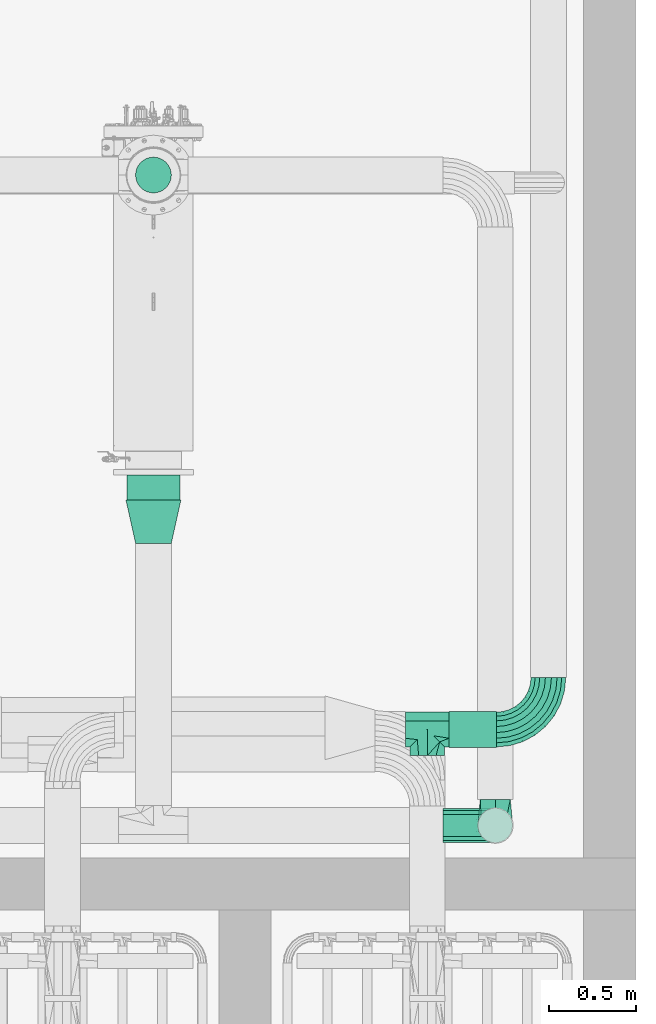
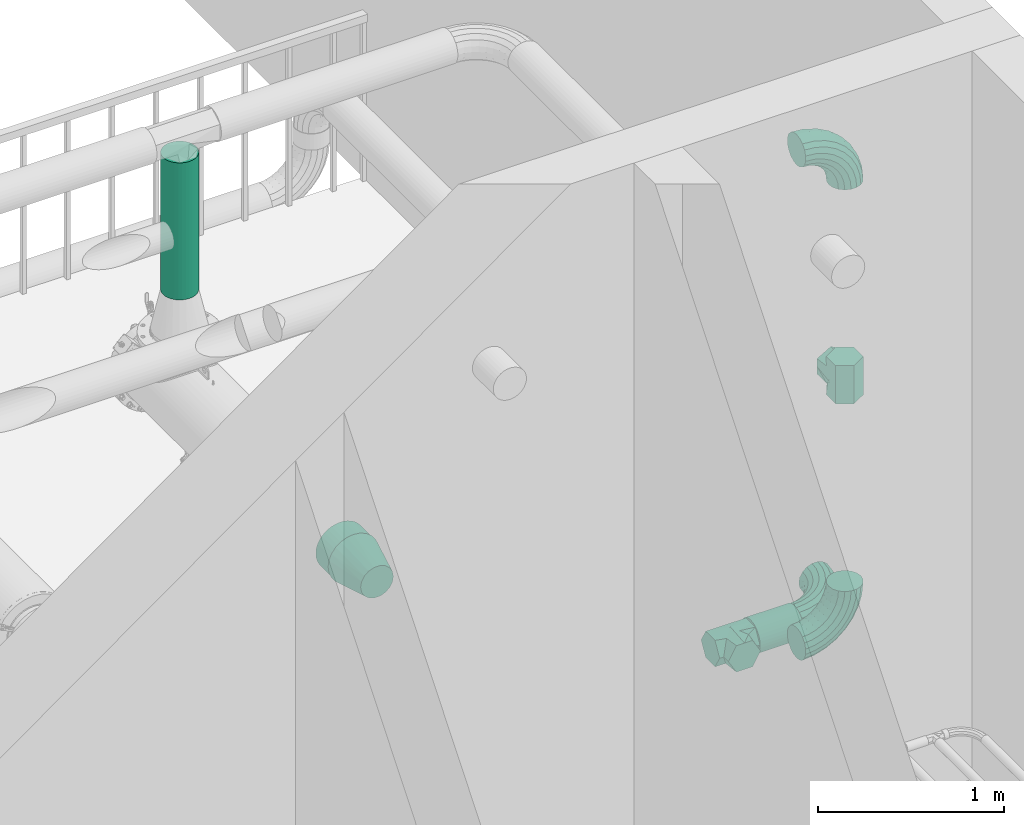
# One storey, part 24 of 28: 6 flow fittings, 3 flow segments.
"""IFC2X3 building model written with IfcOpenShell, lengths in millimetres."""

import ifcopenshell
import ifcopenshell.guid

model = None  # the IFC model being written
_history = None  # IfcOwnerHistory: only IFC2X3 demands one
_inside = {}  # id of a spatial element -> (the spatial element, [elements in it])
_under = {}  # id of a project, library or spatial element -> (it, [spatial elements below it])
_declared = {}  # id of a project -> (the project, [libraries it declares])
_typed = {}  # id of a type object -> (the type object, [elements of that type])
_made_of = {}  # id of a material, layer set ... -> (it, [elements and type objects made of it])


def new_model(schema):
    """Start an empty IFC model of exactly this schema.

    Asked for "IFC4X3", IfcOpenShell would pick the latest addendum, in which some entities
    have other attributes; the version numbers below select the first issue.
    IFC2X3 requires an IfcOwnerHistory on every rooted entity: one is made here for all.
    """
    global model, _history
    if schema == "IFC4X3":
        model = ifcopenshell.file(schema_version=(4, 3, 0, 0))
    else:
        model = ifcopenshell.file(schema=schema)
    _inside.clear()
    _under.clear()
    _declared.clear()
    _typed.clear()
    _made_of.clear()
    _history = None
    if model.schema == "IFC2X3":
        org = make("IfcOrganization", Name="unknown")
        user = make(
            "IfcPersonAndOrganization",
            ThePerson=make("IfcPerson", FamilyName="unknown"),
            TheOrganization=org,
        )
        app = make(
            "IfcApplication",
            ApplicationDeveloper=org,
            Version="unknown",
            ApplicationFullName="unknown",
            ApplicationIdentifier="unknown",
        )
        _history = make(
            "IfcOwnerHistory",
            OwningUser=user,
            OwningApplication=app,
            ChangeAction="ADDED",
            CreationDate=0,
        )
    return model


def make(cls, **values):
    """One entity of the class cls with the attributes given. An attribute that is None is left unset."""
    return model.create_entity(
        cls, **{name: value for name, value in values.items() if value is not None}
    )


def entity(cls, *values):
    """Any entity or typed value of the class cls, its attributes in the order of the schema. None: left unset."""
    e = model.create_entity(cls)
    for i, value in enumerate(values):
        if value is not None:
            e[i] = value
    return e


def rooted(cls, **values):
    """An entity with a GlobalId (a new one), such as an element, a storey or a relation."""
    return make(cls, GlobalId=ifcopenshell.guid.new(), OwnerHistory=_history, **values)


def si_unit(unit_type, name, prefix=None):
    """IfcSIUnit, for example si_unit("LENGTHUNIT", "METRE", prefix="MILLI")."""
    return make("IfcSIUnit", UnitType=unit_type, Prefix=prefix, Name=name)


def converted_unit(unit_type, name, factor, base, dimensions=None, offset=None):
    """IfcConversionBasedUnit, such as the inch: factor (a typed value) times the base unit."""
    return make(
        "IfcConversionBasedUnit"
        if offset is None
        else "IfcConversionBasedUnitWithOffset",
        ConversionOffset=offset,
        Dimensions=None
        if dimensions is None
        else entity("IfcDimensionalExponents", *dimensions),
        UnitType=unit_type,
        Name=name,
        ConversionFactor=make(
            "IfcMeasureWithUnit", ValueComponent=factor, UnitComponent=base
        ),
    )


def assignment(units):
    """IfcUnitAssignment: the units of a project."""
    return None if units is None else make("IfcUnitAssignment", Units=units)


def point(xyz):
    """IfcCartesianPoint."""
    return None if xyz is None else make("IfcCartesianPoint", Coordinates=xyz)


def direction(xyz):
    """IfcDirection."""
    return None if xyz is None else make("IfcDirection", DirectionRatios=xyz)


def frame(location, z_axis=None, x_axis=None):
    """IfcAxis2Placement3D, a coordinate frame: its origin and axes. An axis left out is left unset."""
    return make(
        "IfcAxis2Placement3D",
        Location=point(location),
        Axis=direction(z_axis),
        RefDirection=direction(x_axis),
    )


def frame_2d(location, x_axis=None):
    """IfcAxis2Placement2D, a coordinate frame in the plane: its origin and x axis."""
    return make(
        "IfcAxis2Placement2D", Location=point(location), RefDirection=direction(x_axis)
    )


def origin():
    """The frame at (0, 0, 0) with its axes left unset."""
    return frame((0.0, 0.0, 0.0))


def origin_2d_with_axis():
    """The frame at (0, 0) in the plane with the x axis (1, 0) written out."""
    return frame_2d((0.0, 0.0), x_axis=(1.0, 0.0))


def place(relative_to, where):
    """IfcLocalPlacement: puts the frame where relative to a parent placement (None: the world)."""
    return make(
        "IfcLocalPlacement", PlacementRelTo=relative_to, RelativePlacement=where
    )


def context(
    kind, dimensions, precision=None, world=None, true_north=None, identifier=None
):
    """IfcGeometricRepresentationContext, for example the 3D "Model" context."""
    return make(
        "IfcGeometricRepresentationContext",
        ContextIdentifier=identifier,
        ContextType=kind,
        CoordinateSpaceDimension=dimensions,
        Precision=precision,
        WorldCoordinateSystem=world,
        TrueNorth=true_north,
    )


def subcontext(parent, identifier, kind, view, scale=None):
    """IfcGeometricRepresentationSubContext, for example "Body" below "Model"."""
    return make(
        "IfcGeometricRepresentationSubContext",
        ContextIdentifier=identifier,
        ContextType=kind,
        ParentContext=parent,
        TargetScale=scale,
        TargetView=view,
    )


def project(units=None, contexts=None):
    """IfcProject with its units and contexts."""
    return rooted(
        "IfcProject",
        Name="project",
        RepresentationContexts=contexts,
        UnitsInContext=assignment(units),
    )


def spatial(cls, under=None, at=None, **own):
    """A site, building, storey or space (cls), placed at a placement, below another one or the project."""
    s = rooted(cls, ObjectPlacement=at, **own)
    if under is not None:
        _under.setdefault(under.id(), (under, []))[1].append(s)
    return s


def profile(cls, at=None, kind="AREA", **sizes):
    """A parametric profile (cls). Its sizes go by their IFC names, for example OverallWidth=200.0."""
    return make(cls, ProfileType=kind, Position=at, **sizes)


def circle(**sizes):
    """IfcCircleProfileDef."""
    return profile("IfcCircleProfileDef", **sizes)


def extrude(swept, where, along, depth):
    """IfcExtrudedAreaSolid: the profile swept, set in the frame where, extruded along a direction by depth."""
    return make(
        "IfcExtrudedAreaSolid",
        SweptArea=swept,
        Position=where,
        ExtrudedDirection=direction(along),
        Depth=depth,
    )


def faces_of(points, faces, orient=None, outer=None):
    """IfcFace entities. A face is a list of loops; a loop is a list of indices into points, from 0.

    orient and outer hold one flag for each loop. By default every Orientation is true, the
    first loop of a face is its IfcFaceOuterBound and the others are IfcFaceBound.
    """
    made = []
    for i, loops in enumerate(faces):
        bounds = []
        for j, loop in enumerate(loops):
            is_outer = j == 0 if outer is None else outer[i][j]
            bounds.append(
                make(
                    "IfcFaceOuterBound" if is_outer else "IfcFaceBound",
                    Bound=make("IfcPolyLoop", Polygon=[points[k] for k in loop]),
                    Orientation=True if orient is None else orient[i][j],
                )
            )
        made.append(make("IfcFace", Bounds=bounds))
    return made


def faceted_brep(points, faces, orient=None, outer=None, voids=None):
    """IfcFacetedBrep: a solid bounded by flat faces; with voids (closed shells), ...WithVoids."""
    shared = [point(p) for p in points]
    hull = make("IfcClosedShell", CfsFaces=faces_of(shared, faces, orient, outer))
    if voids is None:
        return make("IfcFacetedBrep", Outer=hull)
    return make(
        "IfcFacetedBrepWithVoids",
        Outer=hull,
        Voids=[
            make(cls, CfsFaces=faces_of(shared, fs, o, b)) for cls, fs, o, b in voids
        ],
    )


def shape(context_of_items, identifier, shape_type, items):
    """IfcShapeRepresentation: the items that make up one representation, for example the "Body"."""
    return make(
        "IfcShapeRepresentation",
        ContextOfItems=context_of_items,
        RepresentationIdentifier=identifier,
        RepresentationType=shape_type,
        Items=items,
    )


def source(mapping_origin, context_of_items, identifier, shape_type, items):
    """IfcRepresentationMap: a shape defined once, which mapped items show again and again."""
    return make(
        "IfcRepresentationMap",
        MappingOrigin=mapping_origin,
        MappedRepresentation=shape(context_of_items, identifier, shape_type, items),
    )


def transform(
    local_origin,
    x_axis=None,
    y_axis=None,
    z_axis=None,
    scale=None,
    scale2=None,
    scale3=None,
    uniform=True,
):
    """IfcCartesianTransformationOperator3D, or its non-uniform kind. x_axis, y_axis, z_axis: its Axis1, 2, 3."""
    if uniform:
        return make(
            "IfcCartesianTransformationOperator3D",
            Axis1=direction(x_axis),
            Axis2=direction(y_axis),
            LocalOrigin=point(local_origin),
            Scale=scale,
            Axis3=direction(z_axis),
        )
    return make(
        "IfcCartesianTransformationOperator3DnonUniform",
        Axis1=direction(x_axis),
        Axis2=direction(y_axis),
        LocalOrigin=point(local_origin),
        Scale=scale,
        Axis3=direction(z_axis),
        Scale2=scale2,
        Scale3=scale3,
    )


def mapped(mapping_source, mapping_target):
    """IfcMappedItem: shows the shape of a source again, moved by a transform."""
    return make(
        "IfcMappedItem", MappingSource=mapping_source, MappingTarget=mapping_target
    )


def material(Name=None, Category=None):
    """IfcMaterial."""
    return make("IfcMaterial", Name=Name, Category=Category)


def made_of(thing, what):
    """Note that an element or type object is made of a material, layer set ...; save() writes the relation."""
    if what is not None:
        _made_of.setdefault(what.id(), (what, []))[1].append(thing)
    return thing


def type_object(cls, material=None, **own):
    """A type object (cls), such as IfcWallType, which elements share."""
    return made_of(rooted(cls, **own), material)


def type_shapes(of_type, sources):
    """Give a type object the sources (RepresentationMaps) that its elements show as mapped items."""
    of_type.RepresentationMaps = sources


def element(
    cls,
    number,
    at=None,
    inside=None,
    cuts=None,
    type_object=None,
    material=None,
    context=None,
    identifier="Body",
    shape_type=None,
    held_by="IfcProductDefinitionShape",
    body=None,
    shapes=None,
    **own,
):
    """One element of the class cls, such as IfcWall. Its Tag is "e" and its number.

    at: its placement. inside: the storey or other place that contains it. cuts: it is an
    opening in that element (IfcRelVoidsElement). A single representation is given by context,
    identifier, shape_type and body (its items); several are given by shapes. held_by: the class
    of the entity that holds the representations. save() writes the other relations.
    """
    e = rooted(cls, Tag="e%d" % number, ObjectPlacement=at, **own)
    if body is not None:
        shapes = [shape(context, identifier, shape_type, body)]
    if shapes is not None:
        e.Representation = make(held_by, Representations=shapes)
    if inside is not None:
        _inside.setdefault(inside.id(), (inside, []))[1].append(e)
    if cuts is not None:
        rooted(
            "IfcRelVoidsElement", RelatingBuildingElement=cuts, RelatedOpeningElement=e
        )
    if type_object is not None:
        _typed.setdefault(type_object.id(), (type_object, []))[1].append(e)
    return made_of(e, material)


def aggregate(whole, parts):
    """IfcRelAggregates: a whole, such as a stair, and the parts it consists of."""
    return rooted("IfcRelAggregates", RelatingObject=whole, RelatedObjects=parts)


def save(model, path):
    """Write the relations noted so far, then the file.

    IfcRelAggregates (storeys below a building ...), IfcRelContainedInSpatialStructure (elements
    in a storey), IfcRelDefinesByType, IfcRelAssociatesMaterial and IfcRelDeclares: one each for
    every whole, place, type object, material and project.
    """
    for whole, parts in _under.values():
        aggregate(whole, parts)
    for where, things in _inside.values():
        rooted(
            "IfcRelContainedInSpatialStructure",
            RelatedElements=things,
            RelatingStructure=where,
        )
    for kind, things in _typed.values():
        rooted("IfcRelDefinesByType", RelatedObjects=things, RelatingType=kind)
    for what, things in _made_of.values():
        rooted("IfcRelAssociatesMaterial", RelatedObjects=things, RelatingMaterial=what)
    for by, libraries in _declared.values():
        rooted("IfcRelDeclares", RelatingContext=by, RelatedDefinitions=libraries)
    model.write(path)


model = new_model("IFC2X3")

# Units and contexts
model_context = context("Model", 3, precision=0.01, world=origin(), true_north=direction((6.123031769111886e-17, 1.0)))
body_context = subcontext(model_context, "Body", "Model", "MODEL_VIEW")
ifc_project = project(units=[si_unit("LENGTHUNIT", "METRE", prefix="MILLI"), converted_unit("PLANEANGLEUNIT", "DEGREE", entity("IfcPlaneAngleMeasure", 0.017453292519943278), si_unit("PLANEANGLEUNIT", "RADIAN"), dimensions=[0, 0, 0, 0, 0, 0, 0]), si_unit("AREAUNIT", "SQUARE_METRE")], contexts=[model_context])

# Site, building, storey
site_placement = place(None, frame((7776.576483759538, 118.3519876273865, 0.0)))
site = spatial("IfcSite", under=ifc_project, at=site_placement, Name="Default", CompositionType="ELEMENT")
building_placement = place(site_placement, origin())
building = spatial("IfcBuilding", under=site, at=building_placement, Name="Bygning (endres i Project Information)", CompositionType="ELEMENT")
storey_placement = place(building_placement, frame((0.0, 0.0, 14000.0)))
storey = spatial("IfcBuildingStorey", under=building, at=storey_placement, Name="Plan U1 - Arbeid", CompositionType="ELEMENT", Elevation=14000.000000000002)

# Flow segments
ifc_material_1 = material(Name="SS 2343 Rustfritt stål, prosessrør, generisk")
pipe_segment_type = type_object("IfcPipeSegmentType", Name="Pipe Types:AISI 304L Rustfritt", PredefinedType="NOTDEFINED", material=ifc_material_1)
flow_segment_1_placement = place(storey_placement, origin())
element("IfcFlowSegment", 1, at=flow_segment_1_placement, inside=storey, type_object=pipe_segment_type, Name="Pipe Types:AISI 304L Rustfritt", ObjectType="Pipe Types:AISI 304L Rustfritt", context=body_context, shape_type="SweptSolid", body=[
    extrude(circle(Radius=103.0, at=frame_2d((-4.331468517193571e-12, 0.0), x_axis=(1.0, 0.0))), frame((29497.26396460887, 28429.85394005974, 1538.2999999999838)), (0.0, 0.0, 1.0), 899.7103656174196),
])
flow_segment_2_placement = place(storey_placement, origin())
element("IfcFlowSegment", 2, at=flow_segment_2_placement, inside=storey, type_object=pipe_segment_type, Name="Pipe Types:AISI 304L Rustfritt", ObjectType="Pipe Types:AISI 304L Rustfritt", context=body_context, shape_type="SweptSolid", body=[
    extrude(circle(Radius=153.0, at=origin_2d_with_axis()), frame((29497.26396460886, 26559.95730578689, 903.5000000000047), z_axis=(0.0, 1.0, 0.0), x_axis=(1.0, 0.0, 0.0)), (0.0, 0.0, 1.0), 142.39663427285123),
])
flow_segment_3_placement = place(storey_placement, origin())
element("IfcFlowSegment", 3, at=flow_segment_3_placement, inside=storey, type_object=pipe_segment_type, Name="Pipe Types:AISI 304L Rustfritt", ObjectType="Pipe Types:AISI 304L Rustfritt", context=body_context, shape_type="SweptSolid", body=[
    extrude(circle(Radius=103.0, at=frame_2d((0.0, -2.1657342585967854e-12), x_axis=(1.0, 0.0))), frame((31199.10137486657, 25237.757305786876, 603.0), z_axis=(1.0, 0.0, 0.0), x_axis=(0.0, -1.0, 0.0)), (0.0, 0.0, 1.0), 271.90000000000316),
])

# Flow fittings
pipe_fitting_type_1 = type_object("IfcPipeFittingType", Name="VA_prosess_rustfritt_bend_D+100:VA_prosess_rustfritt_bend_D+100", PredefinedType="NOTDEFINED", material=ifc_material_1)
shared_shape_1 = source(origin(), body_context, "Body", "Brep", [
    faceted_brep([(-221.96387119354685, -92.314112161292, 0.0), (-223.1404097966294, -86.39925317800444, 34.202014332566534), (-300.0, -93.96926207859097, 34.202014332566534), (-300.0, -100.0, 0.0), (-226.52811768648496, -69.36809551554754, 64.27876096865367), (-300.0, -76.60444431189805, 64.27876096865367), (-231.71838729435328, -43.274848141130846, 86.60254037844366), (-300.0, -50.0, 86.60254037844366), (-238.08519550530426, -11.266741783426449, 98.48077530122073), (-300.0, -17.36481776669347, 98.48077530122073), (-244.86061128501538, 22.79557354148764, 98.48077530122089), (-300.0, 17.36481776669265, 98.48077530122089), (-251.22741949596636, 54.80367989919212, 86.60254037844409), (-300.0, 50.0, 86.60254037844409), (-256.41768910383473, 80.89692727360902, 64.27876096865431), (-300.0, 76.60444431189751, 64.27876096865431), (-259.8053969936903, 97.92808493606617, 34.202014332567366), (-300.0, 93.96926207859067, 34.202014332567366), (-260.9819355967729, 103.84294391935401, 0.0), (-300.0, 100.0, 0.0), (-259.8053969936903, 97.92808493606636, -34.20201433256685), (-300.0, 93.96926207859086, -34.20201433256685), (-256.4176891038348, 80.89692727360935, -64.2787609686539), (-300.0, 76.60444431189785, -64.2787609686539), (-251.22741949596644, 54.80367989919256, -86.60254037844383), (-300.0, 50.0, -86.60254037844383), (-244.86061128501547, 22.795573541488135, -98.48077530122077), (-300.0, 17.364817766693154, -98.48077530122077), (-238.08519550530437, -11.26674178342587, -98.48077530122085), (-300.0, -17.36481776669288, -98.48077530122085), (-231.71838729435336, -43.27484814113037, -86.60254037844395), (-300.0, -50.0, -86.60254037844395), (-226.52811768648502, -69.3680955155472, -64.27876096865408), (-300.0, -76.6044443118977, -64.27876096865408), (-223.14040979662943, -86.39925317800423, -34.2020143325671), (-300.0, -93.96926207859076, -34.2020143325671), (-146.9266270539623, -69.55181300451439, 0.0), (-149.2344905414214, -63.98013767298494, 34.202014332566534), (-155.87971860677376, -47.937137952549, 64.27876096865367), (-166.06079867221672, -23.357836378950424, 86.60254037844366), (-178.54974222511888, 6.79314052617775, 98.48077530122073), (-191.8401983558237, 38.87913996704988, 98.48077530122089), (-204.32914190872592, 69.03011687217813, 86.60254037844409), (-214.51022197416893, 93.6094184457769, 64.27876096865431), (-221.15545003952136, 109.65241816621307, 34.202014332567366), (-223.46331352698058, 115.2240934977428, 0.0), (-221.15545003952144, 109.65241816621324, -34.20201433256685), (-214.51022197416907, 93.60941844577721, -64.2787609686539), (-204.3291419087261, 69.03011687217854, -86.60254037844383), (-191.8401983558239, 38.87913996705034, -98.48077530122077), (-178.5497422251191, 6.7931405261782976, -98.48077530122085), (-166.0607986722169, -23.357836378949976, -86.60254037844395), (-155.8797186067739, -47.937137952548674, -64.27876096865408), (-149.23449054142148, -63.98013767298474, -34.2020143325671), (-77.77190679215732, -32.58784492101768, 0.0), (-81.12240526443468, -27.573469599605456, 34.202014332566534), (-90.76978111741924, -13.135151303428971, 64.27876096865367), (-105.5504184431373, 8.985635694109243, 86.60254037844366), (-123.68155424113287, 36.120798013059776, 98.48077530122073), (-142.97630594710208, 64.997434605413, 98.48077530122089), (-161.1074417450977, 92.13259692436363, 86.60254037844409), (-175.88807907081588, 114.253383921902, 64.27876096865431), (-185.53545492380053, 128.69170221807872, 34.202014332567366), (-188.88595339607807, 133.70607753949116, 0.0), (-185.53545492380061, 128.69170221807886, -34.20201433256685), (-175.88807907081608, 114.25338392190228, -64.2787609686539), (-161.10744174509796, 92.132596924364, -86.60254037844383), (-142.97630594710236, 64.99743460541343, -98.48077530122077), (-123.68155424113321, 36.120798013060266, -98.48077530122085), (-105.55041844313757, 8.985635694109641, -86.60254037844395), (-90.76978111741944, -13.135151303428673, -64.27876096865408), (-81.12240526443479, -27.573469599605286, -34.2020143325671), (-17.15728752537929, 17.157287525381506, 0.0), (-21.421663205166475, 21.42166320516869, 34.202014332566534), (-33.70044360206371, 33.700443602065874, 64.27876096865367), (-52.51262658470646, 52.512626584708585, 86.60254037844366), (-75.58918524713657, 75.58918524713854, 98.48077530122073), (-100.14674604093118, 100.14674604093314, 98.48077530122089), (-123.22330470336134, 123.22330470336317, 86.60254037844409), (-142.03548768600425, 142.035487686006, 64.27876096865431), (-154.3142680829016, 154.3142680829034, 34.202014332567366), (-158.578643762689, 158.57864376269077, 0.0), (-154.31426808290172, 154.31426808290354, -34.20201433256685), (-142.03548768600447, 142.03548768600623, -64.2787609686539), (-123.22330470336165, 123.2233047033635, -86.60254037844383), (-100.14674604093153, 100.1467460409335, -98.48077530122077), (-75.58918524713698, 75.58918524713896, -98.48077530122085), (-52.51262658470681, 52.512626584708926, -86.60254037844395), (-33.700443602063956, 33.70044360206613, -64.27876096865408), (-21.42166320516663, 21.421663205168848, -34.2020143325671), (32.58784492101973, 77.77190679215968, 0.0), (27.573469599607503, 81.12240526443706, 34.202014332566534), (13.135151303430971, 90.76978111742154, 64.27876096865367), (-8.985635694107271, 105.55041844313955, 86.60254037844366), (-36.1207980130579, 123.68155424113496, 98.48077530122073), (-64.99743460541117, 142.97630594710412, 98.48077530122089), (-92.13259692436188, 161.10744174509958, 86.60254037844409), (-114.25338392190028, 175.88807907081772, 64.27876096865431), (-128.69170221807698, 185.53545492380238, 34.202014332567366), (-133.70607753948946, 188.8859533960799, 0.0), (-128.69170221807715, 185.5354549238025, -34.20201433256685), (-114.25338392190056, 175.8880790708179, -64.2787609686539), (-92.13259692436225, 161.10744174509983, -86.60254037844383), (-64.99743460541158, 142.9763059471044, -98.48077530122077), (-36.12079801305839, 123.68155424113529, -98.48077530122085), (-8.985635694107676, 105.55041844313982, -86.60254037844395), (13.13515130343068, 90.76978111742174, -64.27876096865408), (27.573469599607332, 81.12240526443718, -34.2020143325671), (69.55181300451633, 146.92662705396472, 0.0), (63.98013767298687, 149.23449054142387, 34.202014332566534), (47.937137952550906, 155.87971860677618, 64.27876096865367), (23.357836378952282, 166.06079867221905, 86.60254037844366), (-6.793140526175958, 178.54974222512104, 98.48077530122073), (-38.879139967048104, 191.8401983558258, 98.48077530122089), (-69.03011687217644, 204.32914190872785, 86.60254037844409), (-93.60941844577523, 214.5102219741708, 64.27876096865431), (-109.65241816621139, 221.15545003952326, 34.202014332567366), (-115.22409349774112, 223.46331352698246, 0.0), (-109.65241816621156, 221.15545003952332, -34.20201433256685), (-93.60941844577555, 214.51022197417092, -64.2787609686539), (-69.03011687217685, 204.32914190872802, -86.60254037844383), (-38.87913996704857, 191.840198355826, -98.48077530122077), (-6.793140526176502, 178.54974222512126, -98.48077530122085), (23.357836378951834, 166.06079867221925, -86.60254037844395), (47.93713795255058, 155.87971860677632, -64.27876096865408), (63.98013767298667, 149.23449054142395, -34.2020143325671), (92.31411216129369, 221.96387119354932, 0.0), (86.39925317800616, 223.1404097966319, 34.202014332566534), (69.36809551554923, 226.52811768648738, 64.27876096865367), (43.27484814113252, 231.71838729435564, 86.60254037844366), (11.266741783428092, 238.08519550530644, 98.48077530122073), (-22.795573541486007, 244.86061128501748, 98.48077530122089), (-54.80367989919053, 251.22741949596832, 86.60254037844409), (-80.89692727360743, 256.4176891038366, 64.27876096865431), (-97.9280849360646, 259.80539699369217, 34.202014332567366), (-103.84294391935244, 260.9819355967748, 0.0), (-97.92808493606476, 259.8053969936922, -34.20201433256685), (-80.89692727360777, 256.41768910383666, -64.2787609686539), (-54.80367989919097, 251.2274194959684, -86.60254037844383), (-22.795573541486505, 244.8606112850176, -98.48077530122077), (11.266741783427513, 238.08519550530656, -98.48077530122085), (43.27484814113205, 231.71838729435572, -86.60254037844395), (69.36809551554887, 226.52811768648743, -64.27876096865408), (86.39925317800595, 223.14040979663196, -34.2020143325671), (100.0, 300.0, 0.0), (93.96926207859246, 300.0, 34.202014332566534), (76.60444431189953, 300.0, 64.27876096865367), (50.0, 300.0, 86.60254037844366), (17.36481776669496, 300.0, 98.48077530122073), (-17.36481776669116, 300.0, 98.48077530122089), (-50.0, 300.0, 86.60254037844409), (-76.60444431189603, 300.0, 64.27876096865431), (-93.9692620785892, 300.0, 34.202014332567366), (-100.0, 300.0, 0.0), (-93.96926207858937, 300.0, -34.20201433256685), (-76.60444431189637, 300.0, -64.2787609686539), (-50.0, 300.0, -86.60254037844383), (-17.364817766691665, 300.0, -98.48077530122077), (17.36481776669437, 300.0, -98.48077530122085), (50.0, 300.0, -86.60254037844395), (76.60444431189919, 300.0, -64.27876096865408), (93.96926207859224, 300.0, -34.2020143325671)], [[[0, 1, 2, 3]], [[1, 4, 5, 2]], [[4, 6, 7, 5]], [[6, 8, 9, 7]], [[8, 10, 11, 9]], [[10, 12, 13, 11]], [[12, 14, 15, 13]], [[14, 16, 17, 15]], [[16, 18, 19, 17]], [[18, 20, 21, 19]], [[20, 22, 23, 21]], [[22, 24, 25, 23]], [[24, 26, 27, 25]], [[26, 28, 29, 27]], [[28, 30, 31, 29]], [[30, 32, 33, 31]], [[32, 34, 35, 33]], [[34, 0, 3, 35]], [[36, 37, 1, 0]], [[37, 38, 4, 1]], [[38, 39, 6, 4]], [[39, 40, 8, 6]], [[40, 41, 10, 8]], [[41, 42, 12, 10]], [[42, 43, 14, 12]], [[43, 44, 16, 14]], [[44, 45, 18, 16]], [[45, 46, 20, 18]], [[46, 47, 22, 20]], [[47, 48, 24, 22]], [[48, 49, 26, 24]], [[49, 50, 28, 26]], [[50, 51, 30, 28]], [[51, 52, 32, 30]], [[52, 53, 34, 32]], [[53, 36, 0, 34]], [[54, 55, 37, 36]], [[55, 56, 38, 37]], [[56, 57, 39, 38]], [[57, 58, 40, 39]], [[58, 59, 41, 40]], [[59, 60, 42, 41]], [[60, 61, 43, 42]], [[61, 62, 44, 43]], [[62, 63, 45, 44]], [[63, 64, 46, 45]], [[64, 65, 47, 46]], [[65, 66, 48, 47]], [[66, 67, 49, 48]], [[67, 68, 50, 49]], [[68, 69, 51, 50]], [[69, 70, 52, 51]], [[70, 71, 53, 52]], [[71, 54, 36, 53]], [[72, 73, 55, 54]], [[73, 74, 56, 55]], [[74, 75, 57, 56]], [[75, 76, 58, 57]], [[76, 77, 59, 58]], [[77, 78, 60, 59]], [[78, 79, 61, 60]], [[79, 80, 62, 61]], [[80, 81, 63, 62]], [[81, 82, 64, 63]], [[82, 83, 65, 64]], [[83, 84, 66, 65]], [[84, 85, 67, 66]], [[85, 86, 68, 67]], [[86, 87, 69, 68]], [[87, 88, 70, 69]], [[88, 89, 71, 70]], [[89, 72, 54, 71]], [[90, 91, 73, 72]], [[91, 92, 74, 73]], [[92, 93, 75, 74]], [[93, 94, 76, 75]], [[94, 95, 77, 76]], [[95, 96, 78, 77]], [[96, 97, 79, 78]], [[97, 98, 80, 79]], [[98, 99, 81, 80]], [[99, 100, 82, 81]], [[100, 101, 83, 82]], [[101, 102, 84, 83]], [[102, 103, 85, 84]], [[103, 104, 86, 85]], [[104, 105, 87, 86]], [[105, 106, 88, 87]], [[106, 107, 89, 88]], [[107, 90, 72, 89]], [[108, 109, 91, 90]], [[109, 110, 92, 91]], [[110, 111, 93, 92]], [[111, 112, 94, 93]], [[112, 113, 95, 94]], [[113, 114, 96, 95]], [[114, 115, 97, 96]], [[115, 116, 98, 97]], [[116, 117, 99, 98]], [[117, 118, 100, 99]], [[118, 119, 101, 100]], [[119, 120, 102, 101]], [[120, 121, 103, 102]], [[121, 122, 104, 103]], [[122, 123, 105, 104]], [[123, 124, 106, 105]], [[124, 125, 107, 106]], [[125, 108, 90, 107]], [[126, 127, 109, 108]], [[127, 128, 110, 109]], [[128, 129, 111, 110]], [[129, 130, 112, 111]], [[130, 131, 113, 112]], [[131, 132, 114, 113]], [[132, 133, 115, 114]], [[133, 134, 116, 115]], [[134, 135, 117, 116]], [[135, 136, 118, 117]], [[136, 137, 119, 118]], [[137, 138, 120, 119]], [[138, 139, 121, 120]], [[139, 140, 122, 121]], [[140, 141, 123, 122]], [[141, 142, 124, 123]], [[142, 143, 125, 124]], [[143, 126, 108, 125]], [[144, 145, 127, 126]], [[145, 146, 128, 127]], [[146, 147, 129, 128]], [[147, 148, 130, 129]], [[148, 149, 131, 130]], [[149, 150, 132, 131]], [[150, 151, 133, 132]], [[151, 152, 134, 133]], [[152, 153, 135, 134]], [[153, 154, 136, 135]], [[154, 155, 137, 136]], [[155, 156, 138, 137]], [[156, 157, 139, 138]], [[157, 158, 140, 139]], [[158, 159, 141, 140]], [[159, 160, 142, 141]], [[160, 161, 143, 142]], [[161, 144, 126, 143]], [[3, 2, 5, 7, 9, 11, 13, 15, 17, 19, 21, 23, 25, 27, 29, 31, 33, 35]], [[161, 160, 159, 158, 157, 156, 155, 154, 153, 152, 151, 150, 149, 148, 147, 146, 145, 144]]]),
])
type_shapes(pipe_fitting_type_1, [shared_shape_1])
for number, where, z_axis, x_axis in (
    (4, (31465.00137486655, 24685.75730578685, 903.5000000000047), (0.0, -1.0, 0.0), (1.0, 0.0, 0.0)),
    (5, (31465.00137486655, 24685.75730578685, 4140.0), (0.0, 1.0, 0.0), (1.0, 0.0, 0.0)),
):
    element("IfcFlowFitting", number, at=place(storey_placement, frame(where, z_axis=z_axis, x_axis=x_axis)), inside=storey, type_object=pipe_fitting_type_1, material=ifc_material_1, Name="VA_prosess_rustfritt_bend_D+100:VA_prosess_rustfritt_bend_D+100", ObjectType="VA_prosess_rustfritt_bend_D+100:VA_prosess_rustfritt_bend_D+100", context=body_context, shape_type="MappedRepresentation", body=[
        mapped(shared_shape_1, transform((0.0, 0.0, 0.0), scale=1.0)),
    ])
flow_fitting_1_placement = place(storey_placement, frame((31771.00137486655, 25237.757305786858, 603.0)))
element("IfcFlowFitting", 6, at=flow_fitting_1_placement, inside=storey, type_object=pipe_fitting_type_1, material=ifc_material_1, Name="VA_prosess_rustfritt_bend_D+100:VA_prosess_rustfritt_bend_D+100", ObjectType="VA_prosess_rustfritt_bend_D+100:VA_prosess_rustfritt_bend_D+100", context=body_context, shape_type="MappedRepresentation", body=[
    mapped(shared_shape_1, transform((0.0, 0.0, 0.0), scale=1.0)),
])
pipe_fitting_type_2 = type_object("IfcPipeFittingType", Name="Overganger, konsentriske, rustfritt EN 1,4307304L:Standard", PredefinedType="NOTDEFINED", material=ifc_material_1)
shared_shape_2 = source(origin(), body_context, "Body", "Brep", [
    faceted_brep([(252.2000000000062, -40.97105483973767, 152.9060583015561), (252.20000000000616, -79.15000000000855, 137.09182141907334), (252.20000000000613, -111.93500346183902, 111.93500346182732), (252.20000000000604, -137.09182141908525, 79.149999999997), (252.20000000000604, -152.9060583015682, 40.971054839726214), (252.200000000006, -158.30000000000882, 0.0), (252.20000000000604, -152.90605830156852, -40.971054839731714), (252.20000000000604, -137.09182141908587, -79.1500000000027), (252.20000000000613, -111.93500346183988, -111.93500346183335), (252.20000000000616, -79.15000000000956, -137.09182141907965), (252.2000000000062, -40.97105483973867, -152.9060583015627), (252.2000000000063, 0.0, -158.30000000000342), (252.20000000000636, 40.971054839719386, -152.9060583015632), (252.2000000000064, 79.14999999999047, -137.09182141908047), (252.20000000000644, 111.93500346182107, -111.93500346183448), (252.20000000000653, 137.09182141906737, -79.15000000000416), (252.20000000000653, 152.90605830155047, -40.971054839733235), (252.20000000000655, 158.2999999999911, 0.0), (252.20000000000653, 152.90605830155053, 40.97105483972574), (252.20000000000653, 137.0918214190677, 79.14999999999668), (252.20000000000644, 111.93500346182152, 111.93500346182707), (252.2000000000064, 79.14999999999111, 137.09182141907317), (252.20000000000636, 40.97105483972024, 152.90605830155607), (252.2000000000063, 0.0, 158.29999999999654), (0.0, 17.71211412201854, 100.45039080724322), (0.0, 51.0, 88.33459118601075), (0.0, 78.13653319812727, 65.56433618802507), (0.0, 95.84864732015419, 34.8860546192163), (0.0, 102.0, 0.0), (0.0, 95.84864732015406, -34.88605461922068), (0.0, 78.13653319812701, -65.5643361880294), (0.0, 51.0, -88.33459118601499), (0.0, 17.71211412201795, -100.4503908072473), (0.0, -17.71211412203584, -100.4503908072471), (0.0, -51.0, -88.33459118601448), (0.0, -78.13653319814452, -65.5643361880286), (0.0, -95.84864732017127, -34.88605461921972), (0.0, -102.0, 0.0), (0.0, -95.84864732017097, 34.8860546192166), (0.0, -78.136533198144, 65.56433618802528), (0.0, -51.0, 88.3345911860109), (0.0, -17.71211412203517, 100.45039080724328)], [[[0, 1, 2, 3, 4, 5, 6, 7, 8, 9, 10, 11, 12, 13, 14, 15, 16, 17, 18, 19, 20, 21, 22, 23]], [[24, 25, 26, 27, 28, 29, 30, 31, 32, 33, 34, 35, 36, 37, 38, 39, 40, 41]], [[6, 37, 36]], [[8, 35, 34]], [[7, 36, 35]], [[10, 34, 33]], [[6, 5, 37]], [[7, 6, 36]], [[34, 9, 8]], [[8, 7, 35]], [[10, 9, 34]], [[33, 11, 10]], [[12, 11, 32]], [[32, 11, 33]], [[31, 12, 32]], [[15, 30, 29]], [[14, 31, 30]], [[16, 29, 28]], [[31, 13, 12]], [[31, 14, 13]], [[15, 14, 30]], [[29, 16, 15]], [[28, 17, 16]], [[18, 28, 27]], [[20, 26, 25]], [[19, 27, 26]], [[22, 25, 24]], [[18, 17, 28]], [[19, 18, 27]], [[25, 21, 20]], [[20, 19, 26]], [[22, 21, 25]], [[24, 23, 22]], [[0, 23, 41]], [[41, 23, 24]], [[40, 0, 41]], [[3, 39, 38]], [[2, 40, 39]], [[4, 38, 37]], [[40, 1, 0]], [[40, 2, 1]], [[3, 2, 39]], [[38, 4, 3]], [[37, 5, 4]]]),
])
type_shapes(pipe_fitting_type_2, [shared_shape_2])
flow_fitting_2_placement = place(storey_placement, frame((29497.263964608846, 26307.75730578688, 903.5000000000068), z_axis=(0.0, 0.0, 1.0), x_axis=(0.0, 1.0, 0.0)))
element("IfcFlowFitting", 7, at=flow_fitting_2_placement, inside=storey, type_object=pipe_fitting_type_2, material=ifc_material_1, Name="Overganger, konsentriske, rustfritt EN 1,4307304L:Standard", ObjectType="Overganger, konsentriske, rustfritt EN 1,4307304L:Standard", context=body_context, shape_type="MappedRepresentation", body=[
    mapped(shared_shape_2, transform((0.0, 0.0, 0.0), scale=1.0)),
])
ifc_material_2 = material(Name="DF_Material1")
pipe_fitting_type_3 = type_object("IfcPipeFittingType", Name="VA_prosess_rustfritt_vinklet_innsveising:VA_prosess_rustfritt_vinklet_innsveising", PredefinedType="NOTDEFINED", material=ifc_material_2)
shared_shape_3 = source(origin(), body_context, "Body", "Brep", [
    faceted_brep([(125.09999999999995, -50.049999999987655, 86.6891429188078), (125.09999999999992, -62.56249999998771, 65.01685718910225), (125.09999999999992, -75.07499999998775, 43.344571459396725), (125.09999999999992, -87.58749999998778, 21.672285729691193), (125.09999999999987, -100.09999999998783, 0.0), (125.09999999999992, -75.0749999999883, -43.34457145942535), (125.09999999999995, -50.04999999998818, -86.68914291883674), (125.10000000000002, 0.0, -86.68914291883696), (125.10000000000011, 50.050000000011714, -86.68914291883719), (125.10000000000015, 75.07500000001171, -43.344571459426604), (125.1000000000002, 100.10000000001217, 0.0), (125.10000000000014, 75.07500000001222, 43.34457145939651), (125.10000000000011, 50.05000000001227, 86.68914291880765), (125.10000000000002, 0.0, 86.68914291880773), (-125.09999999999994, 50.05000000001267, 86.68914291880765), (-125.09999999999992, 66.73334263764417, 57.7927458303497), (-125.09999999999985, 100.10000000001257, 0.0), (-125.09999999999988, 75.0750000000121, -43.34457145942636), (-125.09999999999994, 50.050000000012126, -86.68914291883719), (-125.10000000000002, 0.0, -86.68914291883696), (-125.1000000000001, -50.049999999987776, -86.68914291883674), (-125.10000000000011, -62.562499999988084, -65.01685718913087), (-125.10000000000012, -75.07499999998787, -43.34457145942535), (-125.10000000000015, -87.58749999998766, -21.672285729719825), (-125.10000000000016, -100.09999999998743, 0.0), (-125.10000000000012, -75.07499999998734, 43.344571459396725), (-125.1000000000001, -50.04999999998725, 86.6891429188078), (-125.10000000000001, 0.0, 86.68914291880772), (-85.5170329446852, -85.51703294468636, -35.314190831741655), (-70.93406588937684, -70.93406588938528, -70.62838166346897), (-35.467032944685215, -35.467032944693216, -85.36419083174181), (-92.80851647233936, -92.80851647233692, -17.657095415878), (79.08074674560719, -79.08074674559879, -40.77031080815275), (58.06149349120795, -58.061493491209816, -81.54062161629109), (0.0, 0.0, -100.10000000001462), (100.10000000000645, -100.0999999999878, 0.0), (89.59037337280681, -89.5903733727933, -20.385155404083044), (-89.58861853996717, -89.58861853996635, -25.45441742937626), (-100.09999999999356, -100.09999999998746, 0.0), (-78.22554941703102, -78.22554941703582, -52.97128624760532), (78.22554941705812, -78.22554941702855, 52.9712862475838), (70.9340658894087, -70.93406588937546, 70.62838166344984), (-58.0614934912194, -58.06149349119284, 81.54062161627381), (0.0, 0.0, 100.09999999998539), (-79.08074674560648, -79.08074674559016, 40.77031080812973), (-89.59037337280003, -89.59037337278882, 20.3851554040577), (35.467032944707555, -35.46703294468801, 85.36419083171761), (85.5170329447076, -85.51703294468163, 35.31419083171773), (89.58861756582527, -89.58861756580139, 25.454419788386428), (92.80851647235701, -92.80851647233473, 17.657095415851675), (50.05000000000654, -150.15000000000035, -86.68914291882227), (72.3000086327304, -150.15000000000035, -48.15099749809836), (100.10000000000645, -150.15000000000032, 0.0), (87.5875000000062, -150.15000000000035, 21.672285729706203), (75.07500000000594, -150.15000000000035, 43.34457145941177), (50.05000000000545, -150.15000000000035, 86.6891429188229), (0.0, -150.15000000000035, 86.68914291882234), (-50.04999999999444, -150.15000000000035, 86.68914291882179), (-72.3000089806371, -150.15000000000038, 48.15099689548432), (-100.09999999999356, -150.15000000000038, 0.0), (-87.58749999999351, -150.15000000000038, -21.672285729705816), (-75.07499999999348, -150.15000000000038, -43.34457145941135), (-50.04999999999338, -150.15000000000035, -86.68914291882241), (0.0, -150.15000000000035, -86.68914291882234)], [[[0, 1, 2, 3, 4, 5, 6, 7, 8, 9, 10, 11, 12, 13]], [[14, 15, 16, 17, 18, 19, 20, 21, 22, 23, 24, 25, 26, 27]], [[28, 23, 22]], [[29, 21, 20]], [[19, 30, 20]], [[31, 24, 23]], [[32, 33, 5]], [[30, 19, 34]], [[33, 6, 5]], [[4, 35, 36, 32]], [[20, 30, 29]], [[16, 10, 9, 8, 18, 17]], [[34, 19, 18]], [[23, 28, 37, 31]], [[24, 31, 38]], [[33, 7, 6]], [[33, 34, 7]], [[22, 39, 28]], [[8, 34, 18]], [[4, 32, 5]], [[21, 39, 22]], [[34, 8, 7]], [[39, 21, 29]], [[40, 1, 41]], [[1, 40, 2]], [[26, 42, 27]], [[12, 11, 10, 16, 15, 14]], [[12, 14, 43]], [[13, 12, 43]], [[42, 26, 25]], [[27, 42, 43]], [[25, 44, 42]], [[24, 38, 45, 44]], [[13, 46, 0]], [[46, 13, 43]], [[0, 41, 1]], [[0, 46, 41]], [[2, 47, 3]], [[24, 44, 25]], [[43, 14, 27]], [[2, 40, 47]], [[3, 47, 48, 49]], [[49, 4, 3]], [[4, 49, 35]], [[50, 51, 52, 53, 54, 55, 56, 57, 58, 59, 60, 61, 62, 63]], [[42, 58, 57]], [[53, 35, 49, 48]], [[58, 42, 44, 45]], [[45, 38, 59]], [[42, 57, 56]], [[54, 48, 47, 40, 41]], [[53, 52, 35]], [[59, 58, 45]], [[42, 56, 43]], [[54, 41, 55]], [[56, 41, 46, 43]], [[56, 55, 41]], [[48, 54, 53]], [[33, 51, 50]], [[60, 38, 31, 37]], [[51, 33, 32, 36]], [[36, 35, 52]], [[33, 50, 63]], [[61, 37, 28, 39, 29]], [[60, 59, 38]], [[52, 51, 36]], [[33, 63, 34]], [[61, 29, 62]], [[63, 29, 30, 34]], [[63, 62, 29]], [[37, 61, 60]]]),
])
type_shapes(pipe_fitting_type_3, [shared_shape_3])
for number, where, z_axis, x_axis in (
    (8, (31465.001374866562, 24685.75730578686, 2552.296079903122), (1.0, 0.0, 0.0), (0.0, 0.0, 1.0)),
    (9, (31074.001374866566, 25237.75730578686, 603.0), (0.0, 0.0, -1.0), (-1.0, 0.0, 0.0)),
):
    element("IfcFlowFitting", number, at=place(storey_placement, frame(where, z_axis=z_axis, x_axis=x_axis)), inside=storey, type_object=pipe_fitting_type_3, material=ifc_material_2, Name="VA_prosess_rustfritt_vinklet_innsveising:VA_prosess_rustfritt_vinklet_innsveising", ObjectType="VA_prosess_rustfritt_vinklet_innsveising:VA_prosess_rustfritt_vinklet_innsveising", context=body_context, shape_type="MappedRepresentation", body=[
        mapped(shared_shape_3, transform((0.0, 0.0, 0.0), scale=1.0)),
    ])

save(model, "model.ifc")
